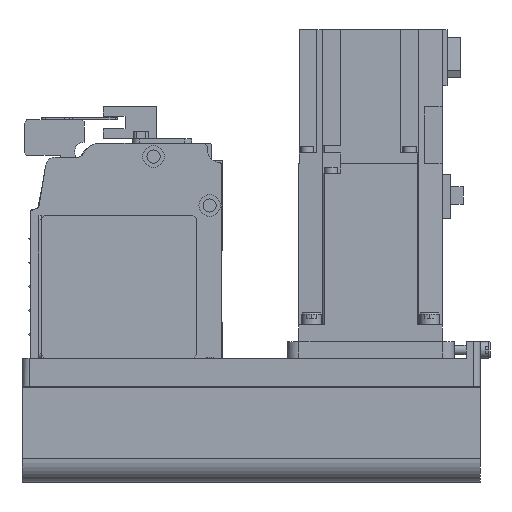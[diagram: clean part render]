
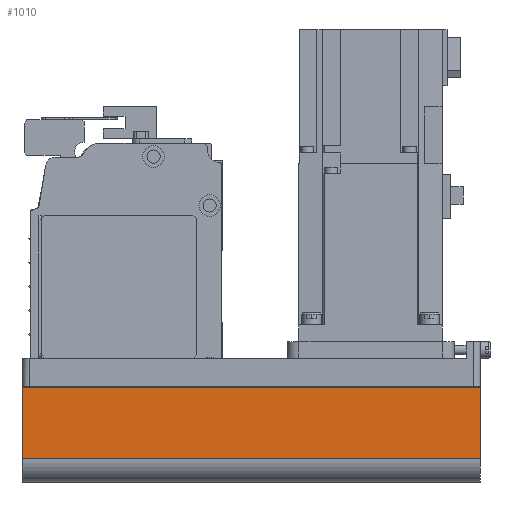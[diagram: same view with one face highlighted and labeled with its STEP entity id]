
A CAD part, left-side view. The second image highlights one B-rep face of the part: STEP entity #1010.
In plain terms, the highlighted planar face has unit normal (-1, 0, 0) as drawn and (0, 1, 0) by its records, which use the part's own axes.
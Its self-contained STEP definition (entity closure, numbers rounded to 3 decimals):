
#1010 = ADVANCED_FACE( '', ( #2563 ), #2564, .T. );
#2563 = FACE_OUTER_BOUND( '', #4859, .T. );
#2564 = PLANE( '', #4860 );
#4859 = EDGE_LOOP( '', ( #7527, #7528, #7529, #7530 ) );
#4860 = AXIS2_PLACEMENT_3D( '', #7531, #7532, #7533 );
#7527 = ORIENTED_EDGE( '', *, *, #13540, .F. );
#7528 = ORIENTED_EDGE( '', *, *, #13541, .F. );
#7529 = ORIENTED_EDGE( '', *, *, #13542, .T. );
#7530 = ORIENTED_EDGE( '', *, *, #13543, .T. );
#7531 = CARTESIAN_POINT( '', ( -192., 40., -42. ) );
#7532 = DIRECTION( '', ( 0., 1., 0. ) );
#7533 = DIRECTION( '', ( 0., 0., 1. ) );
#13540 = EDGE_CURVE( '', #16257, #16258, #16259, .T. );
#13541 = EDGE_CURVE( '', #16260, #16257, #16261, .T. );
#13542 = EDGE_CURVE( '', #16260, #15853, #16262, .T. );
#13543 = EDGE_CURVE( '', #15853, #16258, #16263, .T. );
#15853 = VERTEX_POINT( '', #19535 );
#16257 = VERTEX_POINT( '', #20076 );
#16258 = VERTEX_POINT( '', #20077 );
#16259 = LINE( '', #20078, #20079 );
#16260 = VERTEX_POINT( '', #20080 );
#16261 = LINE( '', #20081, #20082 );
#16262 = LINE( '', #20083, #20084 );
#16263 = LINE( '', #20085, #20086 );
#19535 = CARTESIAN_POINT( '', ( -192., 40., -12.1 ) );
#20076 = CARTESIAN_POINT( '', ( 0., 40., -42. ) );
#20077 = CARTESIAN_POINT( '', ( 0., 40., -12.1 ) );
#20078 = CARTESIAN_POINT( '', ( 0., 40., -42. ) );
#20079 = VECTOR( '', #24481, 1000. );
#20080 = CARTESIAN_POINT( '', ( -192., 40., -42. ) );
#20081 = CARTESIAN_POINT( '', ( -192., 40., -42. ) );
#20082 = VECTOR( '', #24482, 1000. );
#20083 = CARTESIAN_POINT( '', ( -192., 40., -42. ) );
#20084 = VECTOR( '', #24483, 1000. );
#20085 = CARTESIAN_POINT( '', ( -192., 40., -12.1 ) );
#20086 = VECTOR( '', #24484, 1000. );
#24481 = DIRECTION( '', ( 0., 0., 1. ) );
#24482 = DIRECTION( '', ( 1., 0., 0. ) );
#24483 = DIRECTION( '', ( 0., 0., 1. ) );
#24484 = DIRECTION( '', ( 1., 0., 0. ) );
